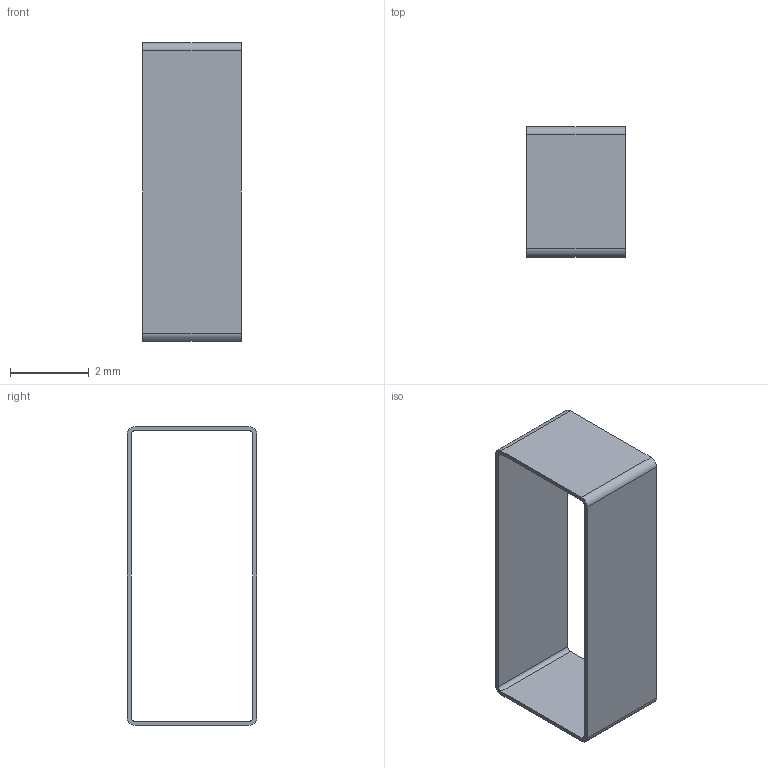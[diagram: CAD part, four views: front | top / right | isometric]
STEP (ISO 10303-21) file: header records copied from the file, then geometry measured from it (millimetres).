
FILE_DESCRIPTION(('Open CASCADE Model'),'2;1');
FILE_NAME('Open CASCADE Shape Model','2026-09-15T14:23:52',('Author'),( 'Open CASCADE'),'Open CASCADE STEP processor 7.7','Open CASCADE 7.7' ,'Unknown');
FILE_SCHEMA(('AUTOMOTIVE_DESIGN { 1 0 10303 214 1 1 1 1 }'));
Length unit declared in the file: millimetre
Products named in the file (1): J9_STOCK_COMMON_JUNCTION_POLYESTER_LOOP_0p10
Bounding box: 2.5 x 3.3 x 7.6 mm (x, y, z)
Volume: 5.3 mm3; surface area: 109.9 mm2
Topology: 1 solids, 1 shells, 18 faces, 48 edges, 32 vertices
Faces by surface type: plane 10, cylinder 8
Entity records: 1210 total; most frequent: CARTESIAN_POINT 263, DIRECTION 170, ORIENTED_EDGE 96, PCURVE 96, DEFINITIONAL_REPRESENTATION 96, LINE 92, VECTOR 92, EDGE_CURVE 48
